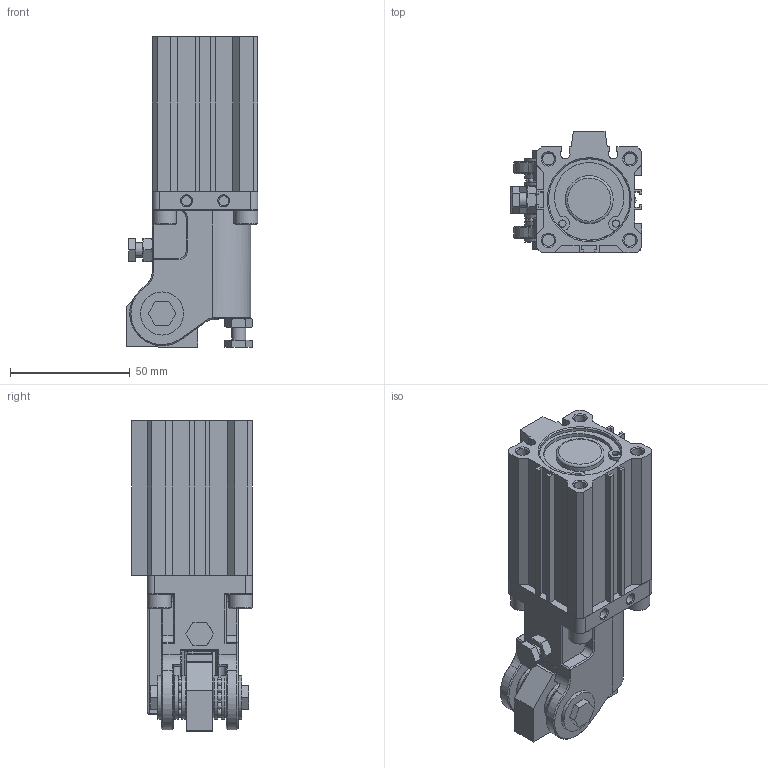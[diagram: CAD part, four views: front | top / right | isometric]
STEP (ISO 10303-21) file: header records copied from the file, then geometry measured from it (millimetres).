
FILE_DESCRIPTION(/* description */ (''),/* implementation_level */ '2;1');
FILE_NAME(/* name */ '_model1.stp',/* time_stamp */ '2023-05-30T18:45:32+08:00',/* author */ (''),/* organization */ (''),/* preprocessor_version */ 'ST-DEVELOPER v14',/* originating_system */ 'SIEMENS PLM Software NX 8.0',/* authorisation */ '');
FILE_SCHEMA (('AP203_CONFIGURATION_CONTROLLED_3D_DESIGN_OF_MECHANICAL_PARTS_AND_ASSEMBLIES_MIM_LF { 1 0 10303 403 2 1 2}'));
Length unit declared in the file: millimetre
Products named in the file (1): Admi0FF02E9Cg3wo
Bounding box: 55.03 x 50.5 x 129.59 mm (x, y, z)
Volume: 179504 mm3; surface area: 62076.2 mm2
Topology: 47 solids, 47 shells, 640 faces, 1552 edges, 998 vertices
Faces by surface type: plane 361, cylinder 128, cone 112, sphere 24, bspline 9, torus 6
Full cylindrical faces by diameter (mm): 2 x2, 2.5 x2, 3 x4, 4 x2, 4.2 x2, 5 x12, 6 x9, 6.5 x6, 8.6 x2, 10 x11, 12 x1, 14 x1, 14.5 x1, 16 x1, 18 x6, 20 x2, 20.5 x1, 33.8 x1, 34 x3, 36 x2
Entity records: 17856 total; most frequent: CARTESIAN_POINT 3879, DIRECTION 2832, ORIENTED_EDGE 2590, EDGE_CURVE 1295, AXIS2_PLACEMENT_3D 1004, VERTEX_POINT 929, EDGE_LOOP 844, LINE 824
